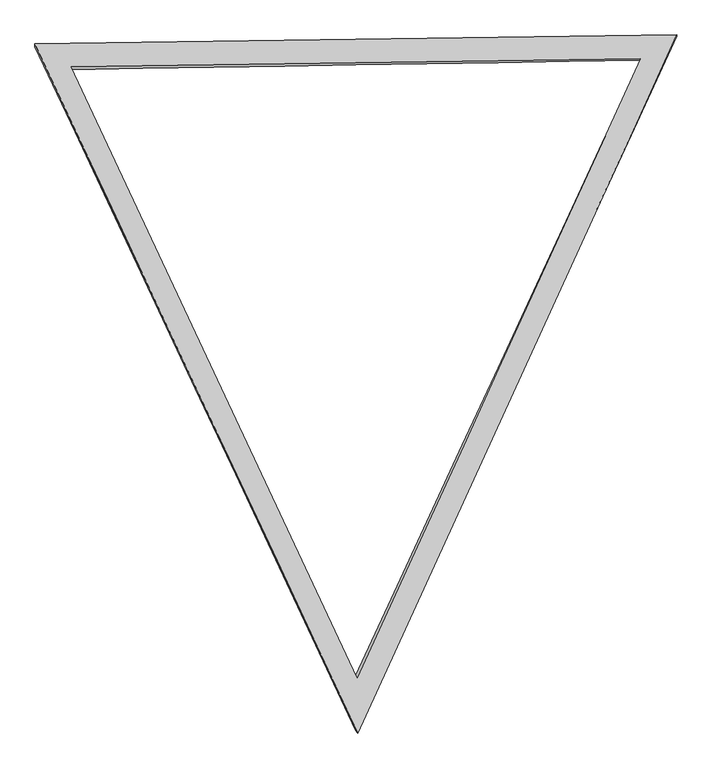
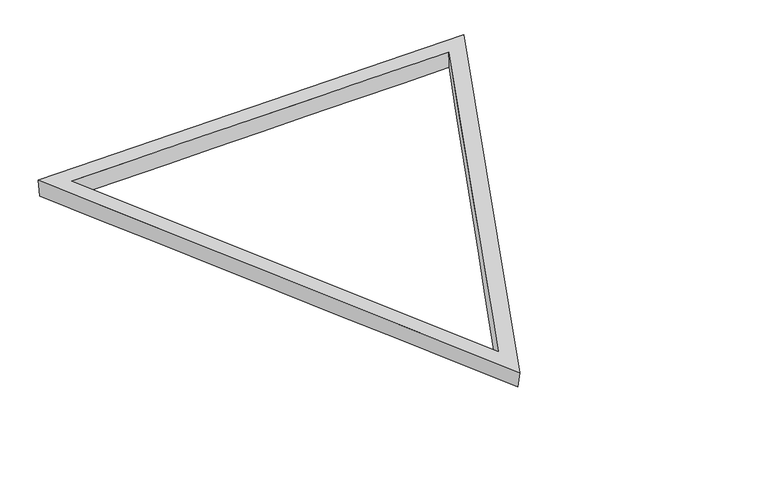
"""IFC4 building model written with IfcOpenShell, lengths in millimetres: plate geometry."""

from ifc_helpers import new_model, si_unit, frame, origin, place, context, project, spatial, source, transform, mapped, element, save
from ifc_brep_helpers import plane_surface, spline_surface, advanced_brep


def plate_9dba2533(model_context):
    return source(origin(), model_context, "Body", "AdvancedBrep", [
        advanced_brep(
        [(3616.9072881, 6837.3986909, 0.0), (3616.5361844, 6861.823331, 201.6835608), (6108.9394366, 1540.8194004, 201.5935779), (6094.6038067, 1559.2401456, 0.0), (8573.926887, 6931.4837162, 202.7126884), (8572.3003253, 6918.0277328, 0.0), (6096.0, 1078.0743489, 0.0), (8892.5424841, 7126.465279, 0.0), (8892.3356358, 7139.1779992, 202.8018342), (6111.1584439, 1057.040485, 201.5391727), (3299.4575159, 7035.4603721, 0.0), (3299.0487609, 7060.5821124, 201.640698)],
        [
            (0, 1),
            (1, 2),
            (2, 3),
            (3, 0),
            (2, 4),
            (4, 5),
            (5, 3),
            (0, 5),
            (4, 1),
            (6, 7),
            (7, 8),
            (8, 9),
            (9, 6),
            (7, 10),
            (10, 11),
            (11, 8),
            (9, 11),
            (10, 6),
        ],
        [
            spline_surface(1, 1, [[(3616.9072881, 6837.3986909, 0.0), (6094.6038067, 1559.2401456, 0.0)], [(3616.5361844, 6861.823331, 201.6835608), (6108.9394366, 1540.8194004, 201.5935779)]], [2, 2], [2, 2], [0.0, 1.0], [0.0, 1.0]),
            spline_surface(1, 1, [[(6094.6038067, 1559.2401456, 0.0), (8572.3003253, 6918.0277328, 0.0)], [(6108.9394366, 1540.8194004, 201.5935779), (8573.926887, 6931.4837162, 202.7126884)]], [2, 2], [2, 2], [0.0, 1.0], [0.0, 1.0]),
            spline_surface(1, 1, [[(8572.3003253, 6918.0277328, 0.0), (3616.9072881, 6837.3986909, 0.0)], [(8573.926887, 6931.4837162, 202.7126884), (3616.5361844, 6861.823331, 201.6835608)]], [2, 2], [2, 2], [0.0, 1.0], [0.0, 1.0]),
            spline_surface(1, 1, [[(6096.0, 1078.0743489, 0.0), (6111.1584439, 1057.040485, 201.5391727)], [(8892.5424841, 7126.465279, 0.0), (8892.3356358, 7139.1779992, 202.8018342)]], [2, 2], [2, 2], [0.0, 1.0], [0.0, 1.0]),
            spline_surface(1, 1, [[(8892.5424841, 7126.465279, 0.0), (8892.3356358, 7139.1779992, 202.8018342)], [(3299.4575159, 7035.4603721, 0.0), (3299.0487609, 7060.5821124, 201.640698)]], [2, 2], [2, 2], [0.0, 1.0], [0.0, 1.0]),
            spline_surface(1, 1, [[(3299.4575159, 7035.4603721, 0.0), (3299.0487609, 7060.5821124, 201.640698)], [(6096.0, 1078.0743489, 0.0), (6111.1584439, 1057.040485, 201.5391727)]], [2, 2], [2, 2], [0.0, 1.0], [0.0, 1.0]),
            plane_surface(frame((6100.8476135, 5085.6001989, 201.9939016), z_axis=(-0.00020600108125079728, -0.00011340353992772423, 0.9999999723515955), x_axis=(0.4241802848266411, -0.9055777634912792, -1.5314127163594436e-05))),
            plane_surface(frame((6096.0, 5080.0, 0.0), z_axis=(0.0, 0.0, -1.0), x_axis=(-0.4249343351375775, 0.9052241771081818, 0.0))),
        ],
        [
            (0, [[1, 2, 3, 4]]),
            (1, [[-3, 5, 6, 7]]),
            (2, [[-1, 8, -6, 9]]),
            (3, [[10, 11, 12, 13]]),
            (4, [[-11, 14, 15, 16]]),
            (5, [[-13, 17, -15, 18]]),
            (6, [[-12, -16, -17], [-2, -9, -5]]),
            (7, [[-10, -18, -14], [-4, -7, -8]]),
        ],
    ),
    ])


if __name__ == "__main__":
    model = new_model("IFC4")
    model_context = context("Model", 3, world=origin())
    ifc_project = project(units=[si_unit("LENGTHUNIT", "METRE", prefix="MILLI")], contexts=[model_context])
    site = spatial("IfcSite", under=ifc_project)
    building = spatial("IfcBuilding", under=site)
    placement = place(None, origin())
    plate_shape = plate_9dba2533(model_context)
    element("IfcPlate", 1, ObjectType="tn_cpanel_patbase_triangle_flat_seamless_frame_02_cylinder : tn_triangle_seamless_frame_t8\"xh8\"", at=placement, inside=building, context=model_context, shape_type="MappedRepresentation", body=[
        mapped(plate_shape, transform((0.0, 0.0, 0.0), x_axis=(1.0, 0.0, 0.0), y_axis=(0.0, 1.0, 0.0), z_axis=(0.0, 0.0, 1.0))),
    ])
    save(model, "model.ifc")
